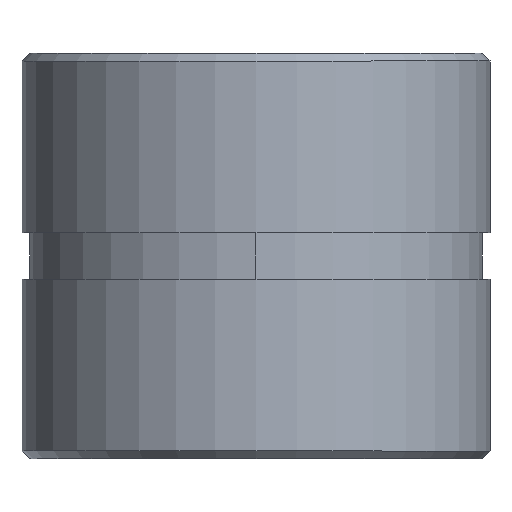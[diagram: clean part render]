
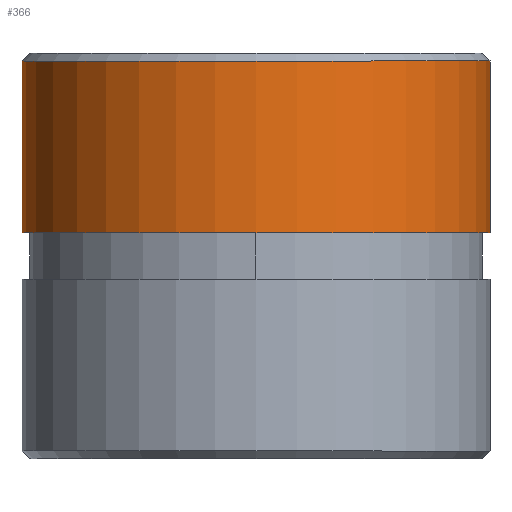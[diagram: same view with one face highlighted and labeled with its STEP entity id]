
A CAD part, front view. The second image highlights one B-rep face of the part: STEP entity #366.
In plain terms, the highlighted cylindrical face has radius 30 mm (diameter 60 mm), a partial arc.
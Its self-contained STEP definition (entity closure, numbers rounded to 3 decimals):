
#221=CARTESIAN_POINT('Vertex',(-30.,0.,25.)) ;
#224=CARTESIAN_POINT('Axis2P3D Location',(0.,0.,25.)) ;
#228=CARTESIAN_POINT('Vertex',(30.,0.,25.)) ;
#336=CARTESIAN_POINT('Axis2P3D Location',(0.,0.,0.)) ;
#341=CARTESIAN_POINT('Line Origine',(30.,0.,0.)) ;
#345=CARTESIAN_POINT('Vertex',(30.,0.,3.)) ;
#348=CARTESIAN_POINT('Line Origine',(-30.,0.,0.)) ;
#352=CARTESIAN_POINT('Vertex',(-30.,0.,3.)) ;
#355=CARTESIAN_POINT('Axis2P3D Location',(0.,0.,3.)) ;
#343=VECTOR('Line Direction',#342,1.) ;
#350=VECTOR('Line Direction',#349,1.) ;
#225=DIRECTION('Axis2P3D Direction',(0.,0.,1.)) ;
#337=DIRECTION('Axis2P3D Direction',(0.,0.,1.)) ;
#338=DIRECTION('Axis2P3D XDirection',(1.,0.,0.)) ;
#342=DIRECTION('Vector Direction',(0.,0.,1.)) ;
#349=DIRECTION('Vector Direction',(0.,0.,1.)) ;
#356=DIRECTION('Axis2P3D Direction',(0.,0.,1.)) ;
#226=AXIS2_PLACEMENT_3D('Circle Axis2P3D',#224,#225,$) ;
#339=AXIS2_PLACEMENT_3D('Cylinder Axis2P3D',#336,#337,#338) ;
#357=AXIS2_PLACEMENT_3D('Circle Axis2P3D',#355,#356,$) ;
#344=LINE('Line',#341,#343) ;
#351=LINE('Line',#348,#350) ;
#227=CIRCLE('generated circle',#226,30.) ;
#358=CIRCLE('generated circle',#357,30.) ;
#340=CYLINDRICAL_SURFACE('generated cylinder',#339,30.) ;
#230=EDGE_CURVE('',#222,#229,#227,.T.) ;
#347=EDGE_CURVE('',#346,#229,#344,.T.) ;
#354=EDGE_CURVE('',#353,#222,#351,.T.) ;
#359=EDGE_CURVE('',#353,#346,#358,.T.) ;
#360=EDGE_LOOP('',(#361,#362,#363,#364)) ;
#361=ORIENTED_EDGE('',*,*,#347,.T.) ;
#362=ORIENTED_EDGE('',*,*,#230,.F.) ;
#363=ORIENTED_EDGE('',*,*,#354,.F.) ;
#364=ORIENTED_EDGE('',*,*,#359,.T.) ;
#222=VERTEX_POINT('',#221) ;
#229=VERTEX_POINT('',#228) ;
#346=VERTEX_POINT('',#345) ;
#353=VERTEX_POINT('',#352) ;
#366=ADVANCED_FACE('PartBody',(#365),#340,.T.) ;
#365=FACE_OUTER_BOUND('',#360,.T.) ;
